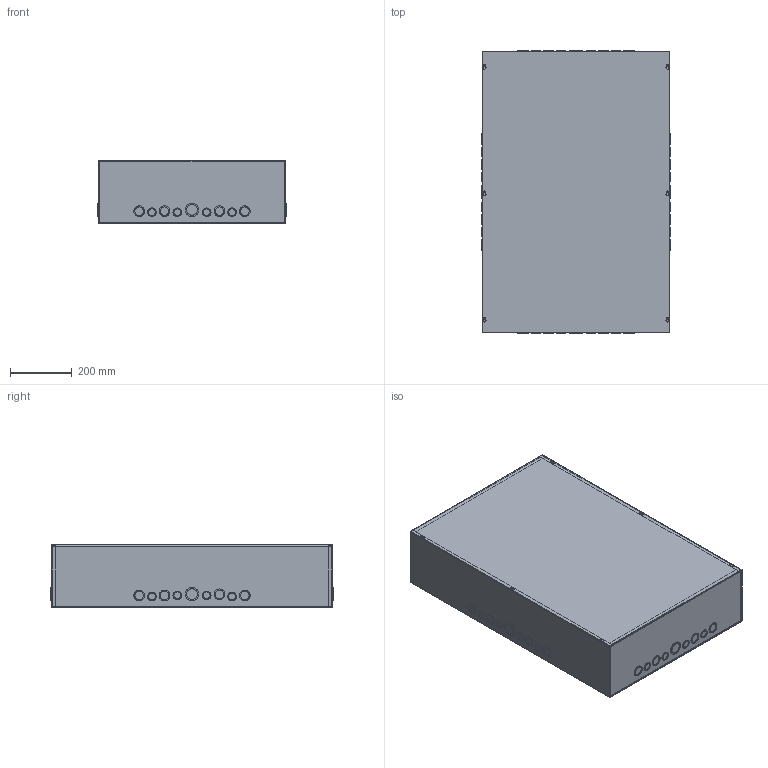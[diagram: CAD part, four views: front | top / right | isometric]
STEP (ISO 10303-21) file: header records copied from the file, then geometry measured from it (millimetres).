
FILE_DESCRIPTION (( 'STEP AP203' ), '1' );
FILE_NAME ('ase36x24x8.STEP', '2011-01-28T20:25:31', ( 'Hoffman User' ), ( 'Hoffman Enclosures' ), 'SwSTEP 2.0', 'SolidWorks 2009', '' );
FILE_SCHEMA (( 'CONFIG_CONTROL_DESIGN' ));
Length unit declared in the file: inch
Products named in the file (5): 42304084; ase36x24x8; 89053811_WELDMENT; 87575633; 87575677
Assembly tree (5 placements, depth 3):
  ase36x24x8
    89053811_WELDMENT
      87575677  x2
      87575633
    42304084
Bounding box: 611.19 x 915.99 x 204.6 mm (x, y, z)
Volume: 2896717.8 mm3; surface area: 3592573.5 mm2
Topology: 4 solids, 4 shells, 925 faces, 2208 edges, 1438 vertices
Faces by surface type: plane 543, cylinder 360, torus 10, bspline 8, cone 4
Entity records: 21523 total; most frequent: CARTESIAN_POINT 3966, DIRECTION 3676, ORIENTED_EDGE 3372, EDGE_CURVE 1686, AXIS2_PLACEMENT_3D 1290, VERTEX_POINT 1100, VECTOR 1096, LINE 1096
